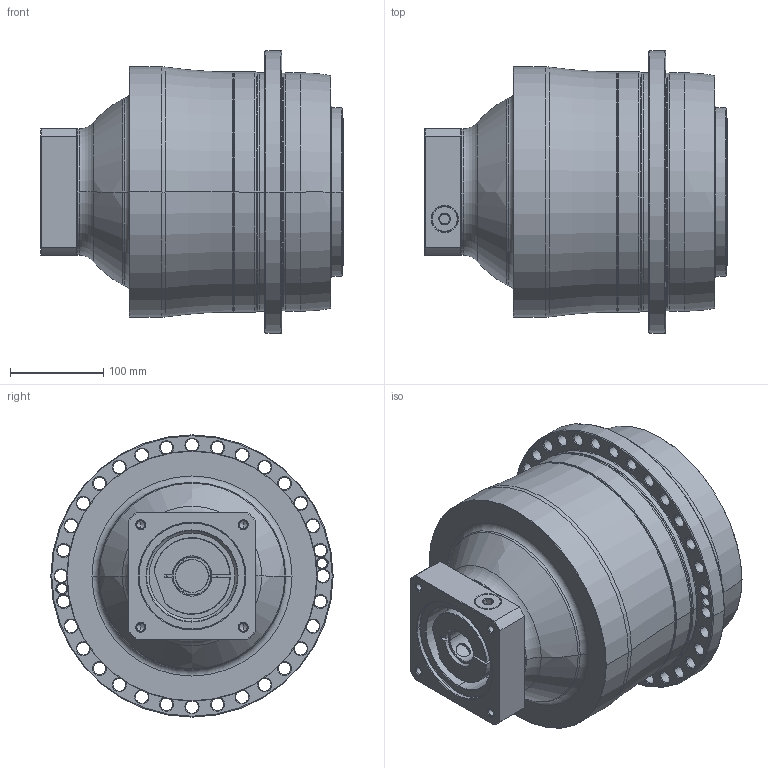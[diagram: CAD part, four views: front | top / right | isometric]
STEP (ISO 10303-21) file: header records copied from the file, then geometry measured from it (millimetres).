
FILE_DESCRIPTION((''),'2;1');
FILE_NAME('AP255_3ST_35-P0409800201_ASM','2018-06-06T',('d01226'),(''),'PRO/ENGINEER BY PARAMETRIC TECHNOLOGY CORPORATION, 2008410','PRO/ENGINEER BY PARAMETRIC TECHNOLOGY CORPORATION, 2008410','');
FILE_SCHEMA(('CONFIG_CONTROL_DESIGN'));
Length unit declared in the file: millimetre
Products named in the file (9): P0278701003; P0359701103; P1366700301; P0503800012; P0912503001; P1211700001; P0409800201; 21711422019; AP255_3ST_35-P0409800201_ASM
Assembly tree (8 placements, depth 2):
  AP255_3ST_35-P0409800201_ASM
    P0278701003
    P0359701103
    P1366700301
    P0503800012
    P0912503001
    P1211700001
    P0409800201
    21711422019
Bounding box: 324 x 302 x 302 mm (x, y, z)
Volume: 13450915 mm3; surface area: 734385.3 mm2
Topology: 9 solids, 32 shells, 683 faces, 1629 edges, 987 vertices
Faces by surface type: cylinder 268, cone 224, plane 99, torus 76, bspline 16
Entity records: 24900 total; most frequent: CARTESIAN_POINT 8236, DIRECTION 3851, ORIENTED_EDGE 3144, AXIS2_PLACEMENT_3D 1647, EDGE_CURVE 1619, VERTEX_POINT 987, CIRCLE 951, EDGE_LOOP 822
